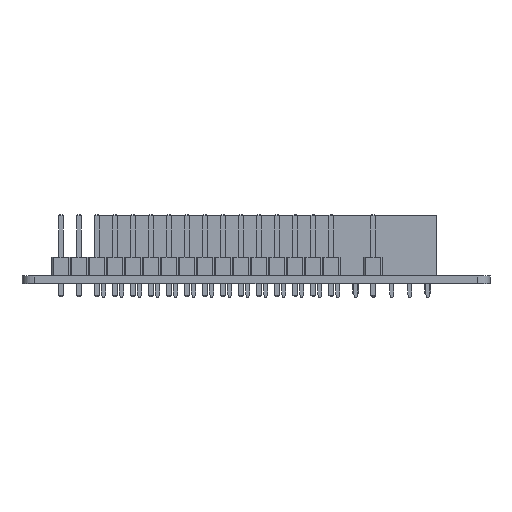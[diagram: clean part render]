
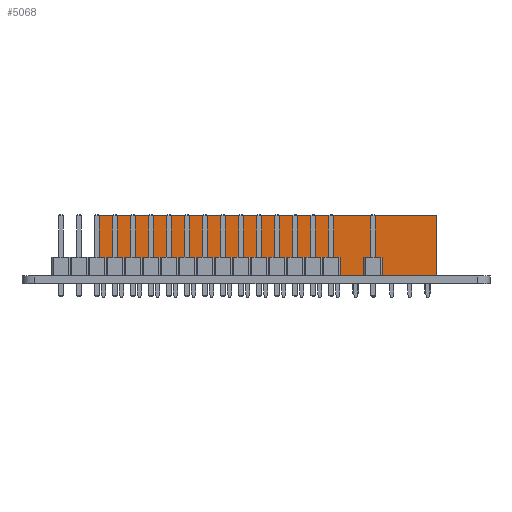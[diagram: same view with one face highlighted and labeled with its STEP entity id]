
A CAD part, front view. The second image highlights one B-rep face of the part: STEP entity #5068.
In plain terms, the highlighted planar face has unit normal (0, -1, 0) as drawn and (-1, 0, 0) by its records, which use the part's own axes.
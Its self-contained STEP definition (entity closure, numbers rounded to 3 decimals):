
#2945 = VERTEX_POINT('',#2946);
#2946 = CARTESIAN_POINT('',(-1.27,-46.99,0.));
#2954 = EDGE_CURVE('',#2945,#2955,#2957,.T.);
#2955 = VERTEX_POINT('',#2956);
#2956 = CARTESIAN_POINT('',(-1.27,-46.99,8.5));
#2957 = LINE('',#2958,#2959);
#2958 = CARTESIAN_POINT('',(-1.27,-46.99,0.));
#2959 = VECTOR('',#2960,1.);
#2960 = DIRECTION('',(0.,0.,1.));
#3017 = VERTEX_POINT('',#3018);
#3018 = CARTESIAN_POINT('',(-1.27,1.27,8.5));
#3024 = EDGE_CURVE('',#3025,#3017,#3027,.T.);
#3025 = VERTEX_POINT('',#3026);
#3026 = CARTESIAN_POINT('',(-1.27,1.27,0.));
#3027 = LINE('',#3028,#3029);
#3028 = CARTESIAN_POINT('',(-1.27,1.27,0.));
#3029 = VECTOR('',#3030,1.);
#3030 = DIRECTION('',(0.,0.,1.));
#3089 = EDGE_CURVE('',#3017,#2955,#3090,.T.);
#3090 = LINE('',#3091,#3092);
#3091 = CARTESIAN_POINT('',(-1.27,1.27,8.5));
#3092 = VECTOR('',#3093,1.);
#3093 = DIRECTION('',(0.,-1.,0.));
#3758 = EDGE_CURVE('',#3025,#2945,#3759,.T.);
#3759 = LINE('',#3760,#3761);
#3760 = CARTESIAN_POINT('',(-1.27,1.27,0.));
#3761 = VECTOR('',#3762,1.);
#3762 = DIRECTION('',(0.,-1.,0.));
#5068 = ADVANCED_FACE('',(#5069),#5075,.F.);
#5069 = FACE_BOUND('',#5070,.F.);
#5070 = EDGE_LOOP('',(#5071,#5072,#5073,#5074));
#5071 = ORIENTED_EDGE('',*,*,#3024,.T.);
#5072 = ORIENTED_EDGE('',*,*,#3089,.T.);
#5073 = ORIENTED_EDGE('',*,*,#2954,.F.);
#5074 = ORIENTED_EDGE('',*,*,#3758,.F.);
#5075 = PLANE('',#5076);
#5076 = AXIS2_PLACEMENT_3D('',#5077,#5078,#5079);
#5077 = CARTESIAN_POINT('',(-1.27,1.27,0.));
#5078 = DIRECTION('',(1.,0.,0.));
#5079 = DIRECTION('',(0.,-1.,0.));
